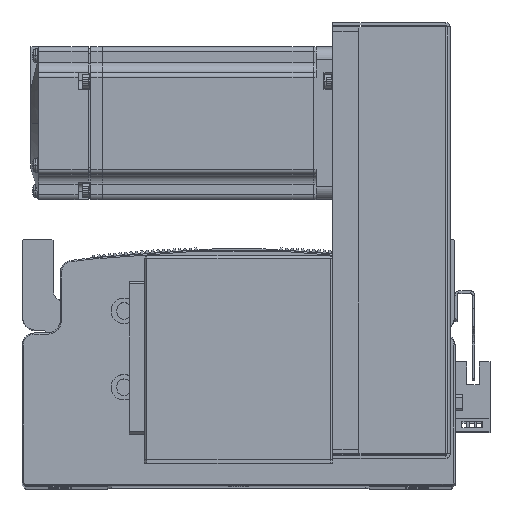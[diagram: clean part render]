
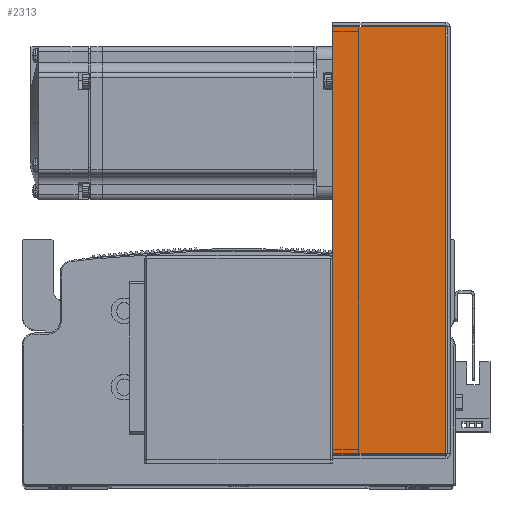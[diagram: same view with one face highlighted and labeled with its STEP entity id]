
A CAD part, top view. The second image highlights one B-rep face of the part: STEP entity #2313.
In plain terms, the highlighted planar face has unit normal (0, 0, 1).
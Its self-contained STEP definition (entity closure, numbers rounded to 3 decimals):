
#565 = CARTESIAN_POINT ( 'NONE',  ( 83.793, 45., 40.5 ) ) ;
#586 = CARTESIAN_POINT ( 'NONE',  ( 83.793, 0.737, 40.5 ) ) ;
#605 = CARTESIAN_POINT ( 'NONE',  ( -83.793, 45., 40.5 ) ) ;
#884 = LINE ( 'NONE', #12785, #895 ) ;
#895 = VECTOR ( 'NONE', #12777, 1000. ) ;
#972 = LINE ( 'NONE', #12991, #997 ) ;
#997 = VECTOR ( 'NONE', #13014, 1000. ) ;
#1026 = LINE ( 'NONE', #12989, #1063 ) ;
#1063 = VECTOR ( 'NONE', #13117, 1000. ) ;
#1219 = VECTOR ( 'NONE', #13185, 1000. ) ;
#1238 = LINE ( 'NONE', #13195, #1219 ) ;
#2313 = ADVANCED_FACE ( 'NONE', ( #46678 ), #27692, .F. ) ;
#12777 = DIRECTION ( 'NONE',  ( -1., 0., 0. ) ) ;
#12785 = CARTESIAN_POINT ( 'NONE',  ( 0., 0.737, 40.5 ) ) ;
#12989 = CARTESIAN_POINT ( 'NONE',  ( 83.793, 0., 40.5 ) ) ;
#12991 = CARTESIAN_POINT ( 'NONE',  ( -84.5, 45., 40.5 ) ) ;
#13014 = DIRECTION ( 'NONE',  ( -1., 0., 0. ) ) ;
#13117 = DIRECTION ( 'NONE',  ( 0., 1., 0. ) ) ;
#13185 = DIRECTION ( 'NONE',  ( 0., 1., 0. ) ) ;
#13195 = CARTESIAN_POINT ( 'NONE',  ( -83.793, 0., 40.5 ) ) ;
#27692 = PLANE ( 'NONE',  #72089 ) ;
#27697 = DIRECTION ( 'NONE',  ( 0., 0., -1. ) ) ;
#27717 = DIRECTION ( 'NONE',  ( -1., 0., 0. ) ) ;
#27727 = CARTESIAN_POINT ( 'NONE',  ( 0., 0., 40.5 ) ) ;
#40131 = EDGE_CURVE ( 'NONE', #45519, #45560, #884, .T. ) ;
#40169 = EDGE_CURVE ( 'NONE', #45515, #45513, #972, .T. ) ;
#40172 = EDGE_CURVE ( 'NONE', #45519, #45515, #1026, .T. ) ;
#40191 = EDGE_CURVE ( 'NONE', #45560, #45513, #1238, .T. ) ;
#45513 = VERTEX_POINT ( 'NONE', #605 ) ;
#45515 = VERTEX_POINT ( 'NONE', #565 ) ;
#45519 = VERTEX_POINT ( 'NONE', #586 ) ;
#45560 = VERTEX_POINT ( 'NONE', #70569 ) ;
#46678 = FACE_OUTER_BOUND ( 'NONE', #52709, .T. ) ;
#52709 = EDGE_LOOP ( 'NONE', ( #67133, #67090, #67142, #67095 ) ) ;
#67090 = ORIENTED_EDGE ( 'NONE', *, *, #40172, .T. ) ;
#67095 = ORIENTED_EDGE ( 'NONE', *, *, #40191, .F. ) ;
#67133 = ORIENTED_EDGE ( 'NONE', *, *, #40131, .F. ) ;
#67142 = ORIENTED_EDGE ( 'NONE', *, *, #40169, .T. ) ;
#70569 = CARTESIAN_POINT ( 'NONE',  ( -83.793, 0.737, 40.5 ) ) ;
#72089 = AXIS2_PLACEMENT_3D ( 'NONE', #27727, #27697, #27717 ) ;
